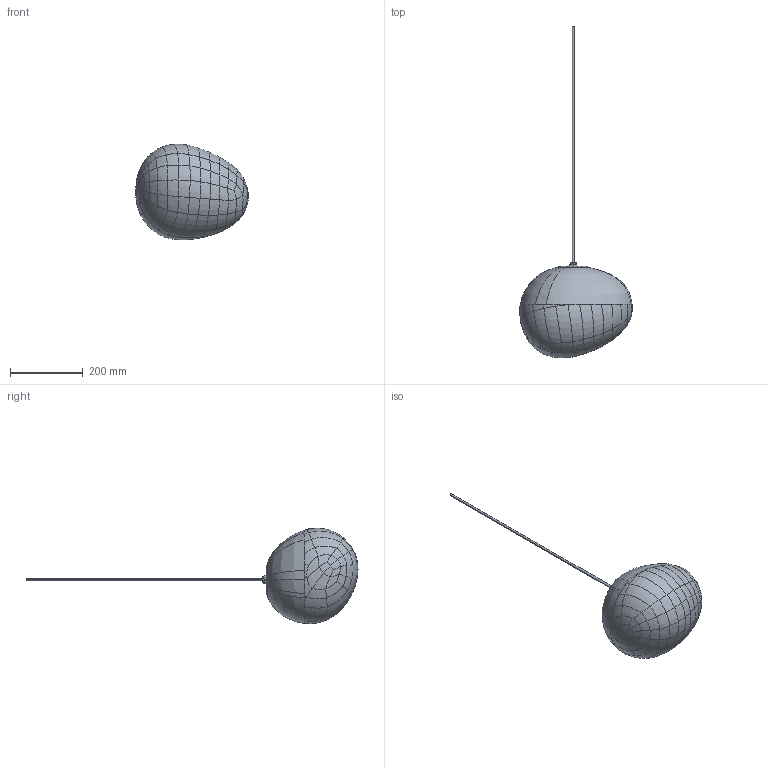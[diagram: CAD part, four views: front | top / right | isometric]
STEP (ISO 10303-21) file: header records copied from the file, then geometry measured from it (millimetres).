
FILE_DESCRIPTION (( 'STEP AP203' ), '1' );
FILE_NAME ('218_MEDIA_OS_PL_3D.STEP', '2021-04-07T14:16:42', ( '' ), ( '' ), 'SwSTEP 2.0', 'SolidWorks 2021', '' );
FILE_SCHEMA (( 'CONFIG_CONTROL_DESIGN' ));
Products named in the file (1): 218_MEDIA_OS_PL_3D
Bounding box: 308.81 x 910.79 x 262.47 mm (x, y, z)
Surface area: 254549.2 mm2 (no closed solid volume)
Topology: 0 solids, 7 shells, 216 faces, 637 edges, 418 vertices
Faces by surface type: bspline 132, plane 31, cylinder 25, torus 12, cone 12, sphere 4
Entity records: 120407 total; most frequent: CARTESIAN_POINT 115972, ORIENTED_EDGE 1075, EDGE_CURVE 629, B_SPLINE_CURVE_WITH_KNOTS 443, DIRECTION 440, VERTEX_POINT 418, EDGE_LOOP 235, ADVANCED_FACE 216
